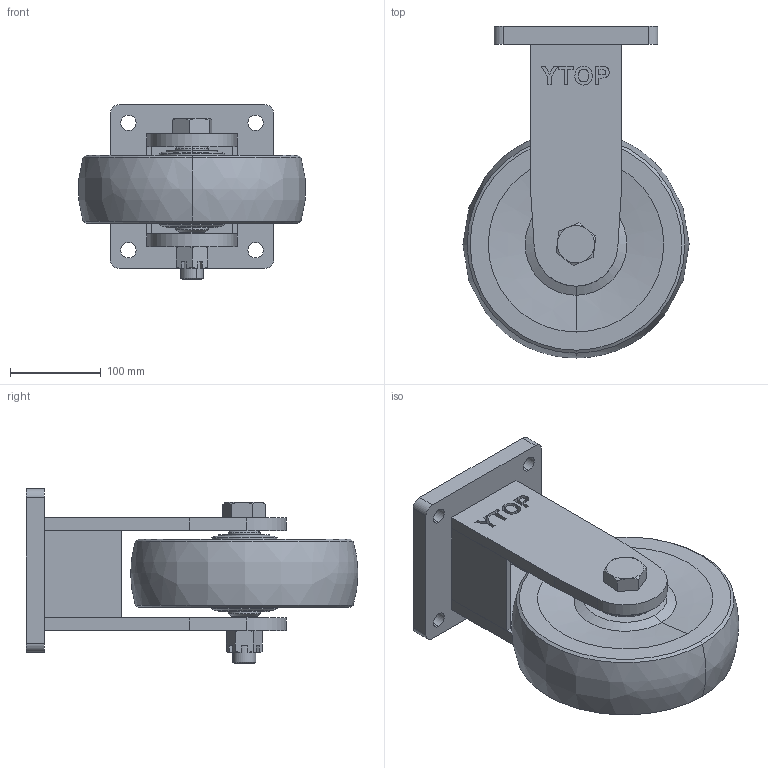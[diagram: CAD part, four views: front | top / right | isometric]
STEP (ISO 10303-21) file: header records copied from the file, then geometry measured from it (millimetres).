
FILE_DESCRIPTION (( 'STEP AP203' ), '1' );
FILE_NAME ('26-250G-75-MC.STEP', '2022-08-20T04:07:56', ( '' ), ( '' ), 'SwSTEP 2.0', 'SolidWorks 2016', '' );
FILE_SCHEMA (( 'CONFIG_CONTROL_DESIGN' ));
Length unit declared in the file: millimetre
Products named in the file (1): 26-250G-75-MC
Bounding box: 248.81 x 365 x 192 mm (x, y, z)
Volume: 4971056.9 mm3; surface area: 427603 mm2
Topology: 8 solids, 8 shells, 282 faces, 702 edges, 459 vertices
Faces by surface type: plane 147, cylinder 52, cone 45, bspline 38
Entity records: 10568 total; most frequent: CARTESIAN_POINT 3936, ORIENTED_EDGE 1404, DIRECTION 1239, EDGE_CURVE 702, VERTEX_POINT 459, LINE 419, VECTOR 419, AXIS2_PLACEMENT_3D 410
